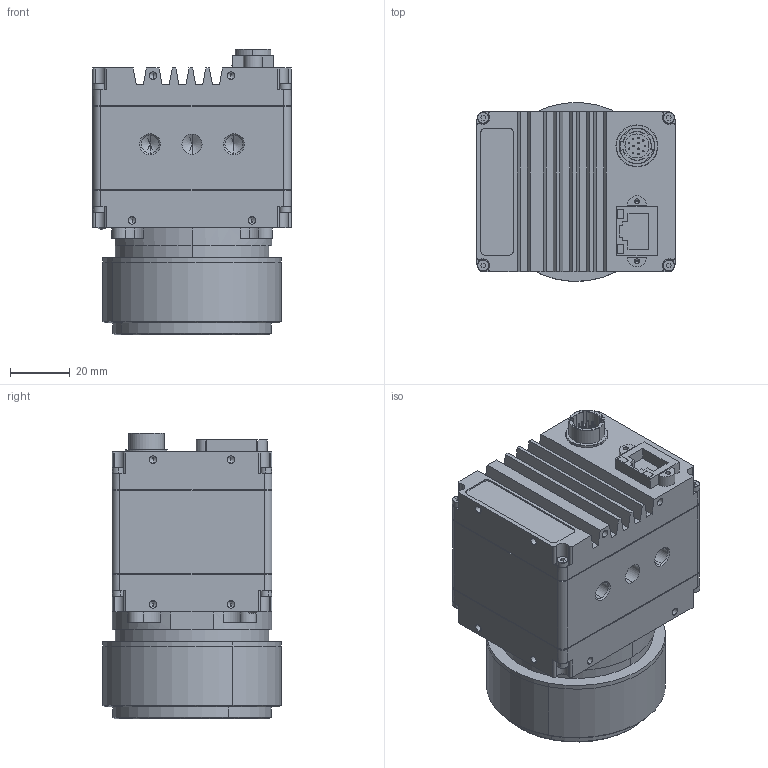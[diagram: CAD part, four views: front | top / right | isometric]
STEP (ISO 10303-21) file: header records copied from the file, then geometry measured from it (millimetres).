
FILE_DESCRIPTION (( 'STEP AP214' ), '1' );
FILE_NAME ('GT6600C M42.STEP', '2016-01-23T00:07:09', ( '' ), ( '' ), 'SwSTEP 2.0', 'SolidWorks 2015', '' );
FILE_SCHEMA (( 'AUTOMOTIVE_DESIGN' ));
Length unit declared in the file: millimetre
Products named in the file (6): GTLF BODY ASSY - defeatured_GT6600; LEGACY FILTER RING - defeatured; LEGACY LENS MOUNT BASE - defeatured; LEGACY M42 ASSY - defeatured; GT6600C M42; IR CUT FILTER - defeatured
Assembly tree (5 placements, depth 2):
  GT6600C M42
    GTLF BODY ASSY - defeatured_GT6600
    LEGACY LENS MOUNT BASE - defeatured
    IR CUT FILTER - defeatured
    LEGACY FILTER RING - defeatured
    LEGACY M42 ASSY - defeatured
Bounding box: 66.04 x 59.63 x 95.31 mm (x, y, z)
Volume: 196934.9 mm3; surface area: 55128.1 mm2
Topology: 5 solids, 13 shells, 773 faces, 1923 edges, 1157 vertices
Faces by surface type: cylinder 329, plane 259, cone 142, sphere 26, torus 17
Entity records: 22630 total; most frequent: DIRECTION 4137, CARTESIAN_POINT 4063, ORIENTED_EDGE 3578, EDGE_CURVE 1789, AXIS2_PLACEMENT_3D 1587, VERTEX_POINT 1133, LINE 963, VECTOR 963
